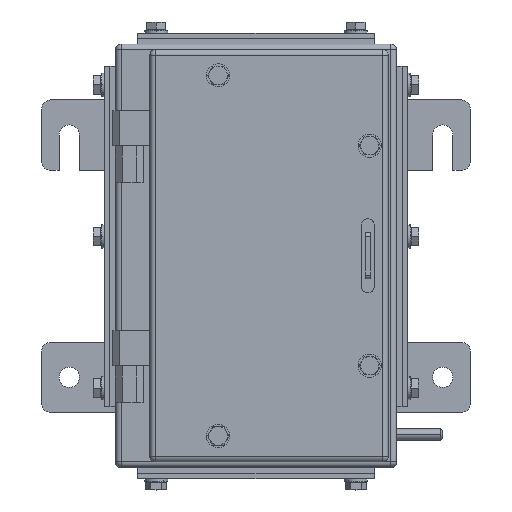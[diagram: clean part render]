
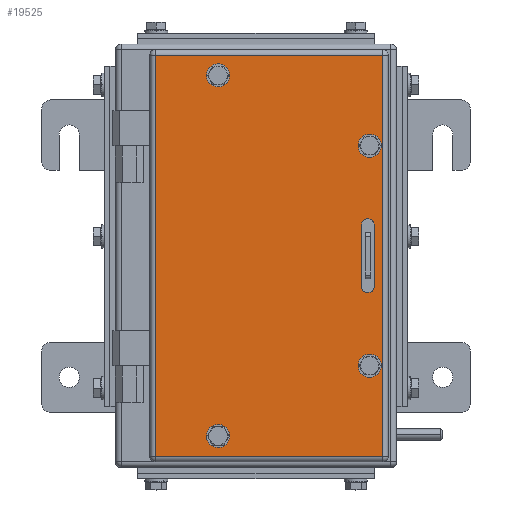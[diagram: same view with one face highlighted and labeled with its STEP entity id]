
A CAD part, top view. The second image highlights one B-rep face of the part: STEP entity #19525.
In plain terms, the highlighted planar face has unit normal (0, 0, 1).
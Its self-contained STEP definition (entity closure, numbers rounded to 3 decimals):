
#29 = DIRECTION ( 'NONE',  ( 0., 0., -1. ) ) ;
#309 = EDGE_CURVE ( 'NONE', #2915, #9269, #7926, .T. ) ;
#423 = DIRECTION ( 'NONE',  ( 1., 0., 0. ) ) ;
#754 = ORIENTED_EDGE ( 'NONE', *, *, #13926, .T. ) ;
#994 = VERTEX_POINT ( 'NONE', #20171 ) ;
#1104 = CIRCLE ( 'NONE', #9166, 3.5 ) ;
#1143 = CIRCLE ( 'NONE', #16956, 3.5 ) ;
#1269 = CARTESIAN_POINT ( 'NONE',  ( 125.5, -16.5, 18. ) ) ;
#1338 = ORIENTED_EDGE ( 'NONE', *, *, #11813, .F. ) ;
#1397 = VERTEX_POINT ( 'NONE', #3819 ) ;
#2064 = EDGE_LOOP ( 'NONE', ( #3003, #754, #7166, #5454 ) ) ;
#2212 = CARTESIAN_POINT ( 'NONE',  ( 129., -16.5, 18. ) ) ;
#2373 = AXIS2_PLACEMENT_3D ( 'NONE', #14422, #15789, #11041 ) ;
#2380 = VECTOR ( 'NONE', #10748, 1000. ) ;
#2614 = EDGE_CURVE ( 'NONE', #9269, #4760, #13984, .T. ) ;
#2840 = DIRECTION ( 'NONE',  ( 0., -1., 0. ) ) ;
#2915 = VERTEX_POINT ( 'NONE', #18871 ) ;
#2916 = DIRECTION ( 'NONE',  ( 1., 0., 0. ) ) ;
#3003 = ORIENTED_EDGE ( 'NONE', *, *, #2614, .T. ) ;
#3086 = CIRCLE ( 'NONE', #15874, 3.5 ) ;
#3530 = VERTEX_POINT ( 'NONE', #1269 ) ;
#3647 = ORIENTED_EDGE ( 'NONE', *, *, #13079, .F. ) ;
#3763 = CIRCLE ( 'NONE', #17879, 3.5 ) ;
#3819 = CARTESIAN_POINT ( 'NONE',  ( 125.5, 16.5, 18. ) ) ;
#4086 = DIRECTION ( 'NONE',  ( 1., 0., 0. ) ) ;
#4137 = ORIENTED_EDGE ( 'NONE', *, *, #19647, .F. ) ;
#4204 = VECTOR ( 'NONE', #2840, 1000. ) ;
#4326 = CARTESIAN_POINT ( 'NONE',  ( 132.5, 16.5, 18. ) ) ;
#4386 = CARTESIAN_POINT ( 'NONE',  ( 51.5, 97.5, 18. ) ) ;
#4454 = FACE_BOUND ( 'NONE', #5577, .T. ) ;
#4629 = CARTESIAN_POINT ( 'NONE',  ( 125.5, 16.5, 18. ) ) ;
#4760 = VERTEX_POINT ( 'NONE', #11422 ) ;
#5189 = PLANE ( 'NONE',  #18946 ) ;
#5277 = VERTEX_POINT ( 'NONE', #12897 ) ;
#5291 = VERTEX_POINT ( 'NONE', #17937 ) ;
#5362 = DIRECTION ( 'NONE',  ( 1., 0., 0. ) ) ;
#5454 = ORIENTED_EDGE ( 'NONE', *, *, #309, .T. ) ;
#5577 = EDGE_LOOP ( 'NONE', ( #8168, #4137, #20304, #3647 ) ) ;
#5805 = AXIS2_PLACEMENT_3D ( 'NONE', #8444, #16370, #19313 ) ;
#6312 = ORIENTED_EDGE ( 'NONE', *, *, #19484, .F. ) ;
#6562 = CARTESIAN_POINT ( 'NONE',  ( 48., -97.5, 18. ) ) ;
#6677 = CARTESIAN_POINT ( 'NONE',  ( 132.5, 16.5, 18. ) ) ;
#6774 = FACE_BOUND ( 'NONE', #19171, .T. ) ;
#6908 = CARTESIAN_POINT ( 'NONE',  ( 132.5, -16.5, 18. ) ) ;
#7066 = EDGE_CURVE ( 'NONE', #12747, #10179, #17306, .T. ) ;
#7166 = ORIENTED_EDGE ( 'NONE', *, *, #14174, .T. ) ;
#7256 = CARTESIAN_POINT ( 'NONE',  ( 137., 111.5, 18. ) ) ;
#7385 = CARTESIAN_POINT ( 'NONE',  ( 51.5, -97.5, 18. ) ) ;
#7386 = EDGE_CURVE ( 'NONE', #1397, #3530, #17273, .T. ) ;
#7439 = ORIENTED_EDGE ( 'NONE', *, *, #20240, .F. ) ;
#7518 = DIRECTION ( 'NONE',  ( 0., 0., 1. ) ) ;
#7757 = CARTESIAN_POINT ( 'NONE',  ( 140., 108.5, 18. ) ) ;
#7807 = DIRECTION ( 'NONE',  ( 0., -1., 0. ) ) ;
#7926 = LINE ( 'NONE', #20788, #16232 ) ;
#7977 = EDGE_LOOP ( 'NONE', ( #16510, #15392 ) ) ;
#8002 = VERTEX_POINT ( 'NONE', #11511 ) ;
#8044 = VERTEX_POINT ( 'NONE', #6908 ) ;
#8077 = EDGE_LOOP ( 'NONE', ( #7439, #9327 ) ) ;
#8168 = ORIENTED_EDGE ( 'NONE', *, *, #7386, .F. ) ;
#8216 = DIRECTION ( 'NONE',  ( 0., 0., 1. ) ) ;
#8444 = CARTESIAN_POINT ( 'NONE',  ( 129., 16.5, 18. ) ) ;
#8650 = EDGE_LOOP ( 'NONE', ( #17211, #10009 ) ) ;
#8680 = EDGE_CURVE ( 'NONE', #10938, #5291, #15032, .T. ) ;
#8724 = DIRECTION ( 'NONE',  ( 1., 0., 0. ) ) ;
#8837 = CIRCLE ( 'NONE', #5805, 3.5 ) ;
#8977 = DIRECTION ( 'NONE',  ( 0., 0., 1. ) ) ;
#9166 = AXIS2_PLACEMENT_3D ( 'NONE', #13943, #7518, #20385 ) ;
#9269 = VERTEX_POINT ( 'NONE', #20594 ) ;
#9327 = ORIENTED_EDGE ( 'NONE', *, *, #17348, .F. ) ;
#9427 = CIRCLE ( 'NONE', #2373, 3.5 ) ;
#10009 = ORIENTED_EDGE ( 'NONE', *, *, #15073, .F. ) ;
#10050 = VERTEX_POINT ( 'NONE', #4386 ) ;
#10179 = VERTEX_POINT ( 'NONE', #12823 ) ;
#10340 = CARTESIAN_POINT ( 'NONE',  ( 130., 59.5, 18. ) ) ;
#10524 = VECTOR ( 'NONE', #17456, 1000. ) ;
#10539 = VECTOR ( 'NONE', #2916, 1000. ) ;
#10748 = DIRECTION ( 'NONE',  ( 0., 1., 0. ) ) ;
#10879 = FACE_BOUND ( 'NONE', #7977, .T. ) ;
#10938 = VERTEX_POINT ( 'NONE', #13637 ) ;
#11029 = LINE ( 'NONE', #7757, #10524 ) ;
#11041 = DIRECTION ( 'NONE',  ( 1., 0., 0. ) ) ;
#11059 = CARTESIAN_POINT ( 'NONE',  ( 137., 108.5, 18. ) ) ;
#11300 = AXIS2_PLACEMENT_3D ( 'NONE', #10340, #15181, #14990 ) ;
#11422 = CARTESIAN_POINT ( 'NONE',  ( 137., -108.5, 18. ) ) ;
#11436 = VERTEX_POINT ( 'NONE', #11059 ) ;
#11511 = CARTESIAN_POINT ( 'NONE',  ( 44.5, 97.5, 18. ) ) ;
#11599 = DIRECTION ( 'NONE',  ( 0., 0., 1. ) ) ;
#11613 = DIRECTION ( 'NONE',  ( -1., 0., 0. ) ) ;
#11813 = EDGE_CURVE ( 'NONE', #8002, #10050, #3086, .T. ) ;
#12095 = CARTESIAN_POINT ( 'NONE',  ( 130., -59.5, 18. ) ) ;
#12565 = CARTESIAN_POINT ( 'NONE',  ( 130., 59.5, 18. ) ) ;
#12623 = VERTEX_POINT ( 'NONE', #6677 ) ;
#12747 = VERTEX_POINT ( 'NONE', #7385 ) ;
#12757 = EDGE_CURVE ( 'NONE', #8044, #12623, #13617, .T. ) ;
#12823 = CARTESIAN_POINT ( 'NONE',  ( 44.5, -97.5, 18. ) ) ;
#12897 = CARTESIAN_POINT ( 'NONE',  ( 133.5, -59.5, 18. ) ) ;
#13079 = EDGE_CURVE ( 'NONE', #3530, #8044, #3763, .T. ) ;
#13097 = FACE_OUTER_BOUND ( 'NONE', #2064, .T. ) ;
#13198 = CARTESIAN_POINT ( 'NONE',  ( 140., 111.5, 18. ) ) ;
#13395 = CARTESIAN_POINT ( 'NONE',  ( 130., -59.5, 18. ) ) ;
#13617 = LINE ( 'NONE', #4326, #2380 ) ;
#13637 = CARTESIAN_POINT ( 'NONE',  ( 133.5, 59.5, 18. ) ) ;
#13926 = EDGE_CURVE ( 'NONE', #4760, #11436, #20005, .T. ) ;
#13943 = CARTESIAN_POINT ( 'NONE',  ( 48., 97.5, 18. ) ) ;
#13984 = LINE ( 'NONE', #16262, #10539 ) ;
#14054 = FACE_BOUND ( 'NONE', #8650, .T. ) ;
#14174 = EDGE_CURVE ( 'NONE', #11436, #2915, #11029, .T. ) ;
#14422 = CARTESIAN_POINT ( 'NONE',  ( 48., -97.5, 18. ) ) ;
#14617 = CIRCLE ( 'NONE', #18308, 3.5 ) ;
#14990 = DIRECTION ( 'NONE',  ( 1., 0., 0. ) ) ;
#15032 = CIRCLE ( 'NONE', #11300, 3.5 ) ;
#15073 = EDGE_CURVE ( 'NONE', #5291, #10938, #14617, .T. ) ;
#15181 = DIRECTION ( 'NONE',  ( 0., 0., 1. ) ) ;
#15392 = ORIENTED_EDGE ( 'NONE', *, *, #17466, .F. ) ;
#15789 = DIRECTION ( 'NONE',  ( 0., 0., 1. ) ) ;
#15874 = AXIS2_PLACEMENT_3D ( 'NONE', #16753, #20317, #8724 ) ;
#16232 = VECTOR ( 'NONE', #7807, 1000. ) ;
#16262 = CARTESIAN_POINT ( 'NONE',  ( 140., -108.5, 18. ) ) ;
#16370 = DIRECTION ( 'NONE',  ( 0., 0., 1. ) ) ;
#16510 = ORIENTED_EDGE ( 'NONE', *, *, #7066, .F. ) ;
#16589 = VECTOR ( 'NONE', #19797, 1000. ) ;
#16753 = CARTESIAN_POINT ( 'NONE',  ( 48., 97.5, 18. ) ) ;
#16956 = AXIS2_PLACEMENT_3D ( 'NONE', #13395, #19813, #5362 ) ;
#17211 = ORIENTED_EDGE ( 'NONE', *, *, #8680, .F. ) ;
#17273 = LINE ( 'NONE', #4629, #4204 ) ;
#17306 = CIRCLE ( 'NONE', #17634, 3.5 ) ;
#17348 = EDGE_CURVE ( 'NONE', #994, #5277, #19880, .T. ) ;
#17456 = DIRECTION ( 'NONE',  ( -1., 0., 0. ) ) ;
#17466 = EDGE_CURVE ( 'NONE', #10179, #12747, #9427, .T. ) ;
#17634 = AXIS2_PLACEMENT_3D ( 'NONE', #6562, #11599, #19500 ) ;
#17879 = AXIS2_PLACEMENT_3D ( 'NONE', #2212, #8216, #423 ) ;
#17937 = CARTESIAN_POINT ( 'NONE',  ( 126.5, 59.5, 18. ) ) ;
#18308 = AXIS2_PLACEMENT_3D ( 'NONE', #12565, #8977, #18993 ) ;
#18516 = DIRECTION ( 'NONE',  ( 0., 0., 1. ) ) ;
#18871 = CARTESIAN_POINT ( 'NONE',  ( 14., 108.5, 18. ) ) ;
#18946 = AXIS2_PLACEMENT_3D ( 'NONE', #13198, #29, #11613 ) ;
#18993 = DIRECTION ( 'NONE',  ( 1., 0., 0. ) ) ;
#19171 = EDGE_LOOP ( 'NONE', ( #6312, #1338 ) ) ;
#19313 = DIRECTION ( 'NONE',  ( 1., 0., 0. ) ) ;
#19484 = EDGE_CURVE ( 'NONE', #10050, #8002, #1104, .T. ) ;
#19500 = DIRECTION ( 'NONE',  ( 1., 0., 0. ) ) ;
#19519 = AXIS2_PLACEMENT_3D ( 'NONE', #12095, #18516, #4086 ) ;
#19525 = ADVANCED_FACE ( 'NONE', ( #14054, #20483, #4454, #10879, #6774, #13097 ), #5189, .F. ) ;
#19647 = EDGE_CURVE ( 'NONE', #12623, #1397, #8837, .T. ) ;
#19797 = DIRECTION ( 'NONE',  ( 0., 1., 0. ) ) ;
#19813 = DIRECTION ( 'NONE',  ( 0., 0., 1. ) ) ;
#19880 = CIRCLE ( 'NONE', #19519, 3.5 ) ;
#20005 = LINE ( 'NONE', #7256, #16589 ) ;
#20171 = CARTESIAN_POINT ( 'NONE',  ( 126.5, -59.5, 18. ) ) ;
#20240 = EDGE_CURVE ( 'NONE', #5277, #994, #1143, .T. ) ;
#20304 = ORIENTED_EDGE ( 'NONE', *, *, #12757, .F. ) ;
#20317 = DIRECTION ( 'NONE',  ( 0., 0., 1. ) ) ;
#20385 = DIRECTION ( 'NONE',  ( 1., 0., 0. ) ) ;
#20483 = FACE_BOUND ( 'NONE', #8077, .T. ) ;
#20594 = CARTESIAN_POINT ( 'NONE',  ( 14., -108.5, 18. ) ) ;
#20788 = CARTESIAN_POINT ( 'NONE',  ( 14., 111.5, 18. ) ) ;
